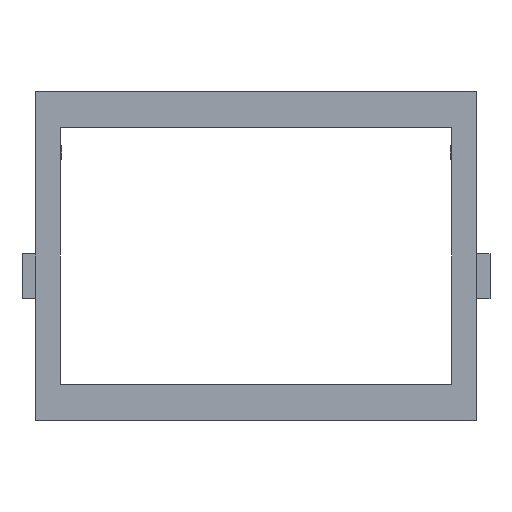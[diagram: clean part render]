
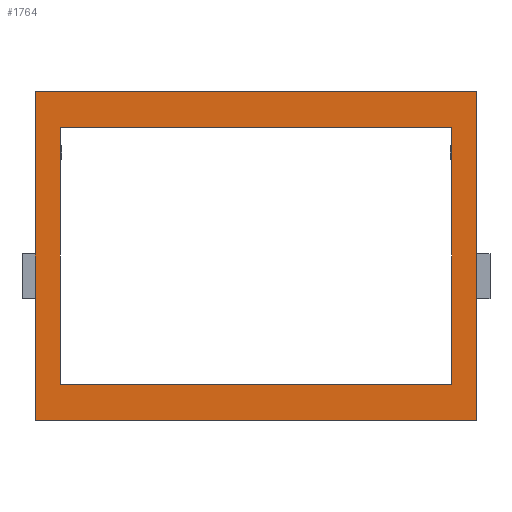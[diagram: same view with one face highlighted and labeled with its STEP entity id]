
A CAD part, front view. The second image highlights one B-rep face of the part: STEP entity #1764.
In plain terms, the highlighted planar face has unit normal (0, -1, 0).
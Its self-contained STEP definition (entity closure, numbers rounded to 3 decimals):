
#22 = VERTEX_POINT('',#23);
#23 = CARTESIAN_POINT('',(36.,80.4,86.));
#32 = PLANE('',#33);
#33 = AXIS2_PLACEMENT_3D('',#34,#35,#36);
#34 = CARTESIAN_POINT('',(36.,80.4,13.));
#35 = DIRECTION('',(1.,0.,0.));
#36 = DIRECTION('',(0.,0.,1.));
#44 = PLANE('',#45);
#45 = AXIS2_PLACEMENT_3D('',#46,#47,#48);
#46 = CARTESIAN_POINT('',(36.,80.4,86.));
#47 = DIRECTION('',(0.,0.,1.));
#48 = DIRECTION('',(1.,0.,0.));
#56 = EDGE_CURVE('',#57,#22,#59,.T.);
#57 = VERTEX_POINT('',#58);
#58 = CARTESIAN_POINT('',(36.,80.4,13.));
#59 = SURFACE_CURVE('',#60,(#64,#71),.PCURVE_S1.);
#60 = LINE('',#61,#62);
#61 = CARTESIAN_POINT('',(36.,80.4,13.));
#62 = VECTOR('',#63,1.);
#63 = DIRECTION('',(0.,0.,1.));
#64 = PCURVE('',#32,#65);
#65 = DEFINITIONAL_REPRESENTATION('',(#66),#70);
#66 = LINE('',#67,#68);
#67 = CARTESIAN_POINT('',(0.,0.));
#68 = VECTOR('',#69,1.);
#69 = DIRECTION('',(1.,0.));
#70 = ( GEOMETRIC_REPRESENTATION_CONTEXT(2) 
PARAMETRIC_REPRESENTATION_CONTEXT() REPRESENTATION_CONTEXT('2D SPACE',''
  ) );
#71 = PCURVE('',#72,#77);
#72 = PLANE('',#73);
#73 = AXIS2_PLACEMENT_3D('',#74,#75,#76);
#74 = CARTESIAN_POINT('',(36.,80.4,13.));
#75 = DIRECTION('',(0.,1.,0.));
#76 = DIRECTION('',(0.,0.,1.));
#77 = DEFINITIONAL_REPRESENTATION('',(#78),#82);
#78 = LINE('',#79,#80);
#79 = CARTESIAN_POINT('',(0.,0.));
#80 = VECTOR('',#81,1.);
#81 = DIRECTION('',(1.,0.));
#82 = ( GEOMETRIC_REPRESENTATION_CONTEXT(2) 
PARAMETRIC_REPRESENTATION_CONTEXT() REPRESENTATION_CONTEXT('2D SPACE',''
  ) );
#100 = PLANE('',#101);
#101 = AXIS2_PLACEMENT_3D('',#102,#103,#104);
#102 = CARTESIAN_POINT('',(36.,80.4,13.));
#103 = DIRECTION('',(0.,0.,1.));
#104 = DIRECTION('',(1.,0.,0.));
#243 = EDGE_CURVE('',#22,#244,#246,.T.);
#244 = VERTEX_POINT('',#245);
#245 = CARTESIAN_POINT('',(134.,80.4,86.));
#246 = SURFACE_CURVE('',#247,(#251,#258),.PCURVE_S1.);
#247 = LINE('',#248,#249);
#248 = CARTESIAN_POINT('',(36.,80.4,86.));
#249 = VECTOR('',#250,1.);
#250 = DIRECTION('',(1.,0.,0.));
#251 = PCURVE('',#44,#252);
#252 = DEFINITIONAL_REPRESENTATION('',(#253),#257);
#253 = LINE('',#254,#255);
#254 = CARTESIAN_POINT('',(0.,0.));
#255 = VECTOR('',#256,1.);
#256 = DIRECTION('',(1.,0.));
#257 = ( GEOMETRIC_REPRESENTATION_CONTEXT(2) 
PARAMETRIC_REPRESENTATION_CONTEXT() REPRESENTATION_CONTEXT('2D SPACE',''
  ) );
#258 = PCURVE('',#72,#259);
#259 = DEFINITIONAL_REPRESENTATION('',(#260),#264);
#260 = LINE('',#261,#262);
#261 = CARTESIAN_POINT('',(73.,0.));
#262 = VECTOR('',#263,1.);
#263 = DIRECTION('',(0.,1.));
#264 = ( GEOMETRIC_REPRESENTATION_CONTEXT(2) 
PARAMETRIC_REPRESENTATION_CONTEXT() REPRESENTATION_CONTEXT('2D SPACE',''
  ) );
#282 = PLANE('',#283);
#283 = AXIS2_PLACEMENT_3D('',#284,#285,#286);
#284 = CARTESIAN_POINT('',(134.,80.4,13.));
#285 = DIRECTION('',(1.,0.,0.));
#286 = DIRECTION('',(0.,0.,1.));
#1185 = PLANE('',#1186);
#1186 = AXIS2_PLACEMENT_3D('',#1187,#1188,#1189);
#1187 = CARTESIAN_POINT('',(40.,80.3,78.));
#1188 = DIRECTION('',(0.,0.,1.));
#1189 = DIRECTION('',(1.,0.,0.));
#1212 = PLANE('',#1213);
#1213 = AXIS2_PLACEMENT_3D('',#1214,#1215,#1216);
#1214 = CARTESIAN_POINT('',(41.5,80.4,21.));
#1215 = DIRECTION('',(1.,0.,0.));
#1216 = DIRECTION('',(0.,0.,1.));
#1240 = PLANE('',#1241);
#1241 = AXIS2_PLACEMENT_3D('',#1242,#1243,#1244);
#1242 = CARTESIAN_POINT('',(40.,80.3,21.));
#1243 = DIRECTION('',(0.,0.,1.));
#1244 = DIRECTION('',(1.,0.,0.));
#1265 = PLANE('',#1266);
#1266 = AXIS2_PLACEMENT_3D('',#1267,#1268,#1269);
#1267 = CARTESIAN_POINT('',(128.5,80.4,21.));
#1268 = DIRECTION('',(1.,0.,0.));
#1269 = DIRECTION('',(0.,0.,1.));
#1720 = EDGE_CURVE('',#57,#1721,#1723,.T.);
#1721 = VERTEX_POINT('',#1722);
#1722 = CARTESIAN_POINT('',(134.,80.4,13.));
#1723 = SURFACE_CURVE('',#1724,(#1728,#1735),.PCURVE_S1.);
#1724 = LINE('',#1725,#1726);
#1725 = CARTESIAN_POINT('',(36.,80.4,13.));
#1726 = VECTOR('',#1727,1.);
#1727 = DIRECTION('',(1.,0.,0.));
#1728 = PCURVE('',#100,#1729);
#1729 = DEFINITIONAL_REPRESENTATION('',(#1730),#1734);
#1730 = LINE('',#1731,#1732);
#1731 = CARTESIAN_POINT('',(0.,0.));
#1732 = VECTOR('',#1733,1.);
#1733 = DIRECTION('',(1.,0.));
#1734 = ( GEOMETRIC_REPRESENTATION_CONTEXT(2) 
PARAMETRIC_REPRESENTATION_CONTEXT() REPRESENTATION_CONTEXT('2D SPACE',''
  ) );
#1735 = PCURVE('',#72,#1736);
#1736 = DEFINITIONAL_REPRESENTATION('',(#1737),#1741);
#1737 = LINE('',#1738,#1739);
#1738 = CARTESIAN_POINT('',(0.,0.));
#1739 = VECTOR('',#1740,1.);
#1740 = DIRECTION('',(0.,1.));
#1741 = ( GEOMETRIC_REPRESENTATION_CONTEXT(2) 
PARAMETRIC_REPRESENTATION_CONTEXT() REPRESENTATION_CONTEXT('2D SPACE',''
  ) );
#1764 = ADVANCED_FACE('',(#1765,#1791),#72,.F.);
#1765 = FACE_BOUND('',#1766,.F.);
#1766 = EDGE_LOOP('',(#1767,#1768,#1769,#1770));
#1767 = ORIENTED_EDGE('',*,*,#1720,.F.);
#1768 = ORIENTED_EDGE('',*,*,#56,.T.);
#1769 = ORIENTED_EDGE('',*,*,#243,.T.);
#1770 = ORIENTED_EDGE('',*,*,#1771,.F.);
#1771 = EDGE_CURVE('',#1721,#244,#1772,.T.);
#1772 = SURFACE_CURVE('',#1773,(#1777,#1784),.PCURVE_S1.);
#1773 = LINE('',#1774,#1775);
#1774 = CARTESIAN_POINT('',(134.,80.4,13.));
#1775 = VECTOR('',#1776,1.);
#1776 = DIRECTION('',(0.,0.,1.));
#1777 = PCURVE('',#72,#1778);
#1778 = DEFINITIONAL_REPRESENTATION('',(#1779),#1783);
#1779 = LINE('',#1780,#1781);
#1780 = CARTESIAN_POINT('',(0.,98.));
#1781 = VECTOR('',#1782,1.);
#1782 = DIRECTION('',(1.,0.));
#1783 = ( GEOMETRIC_REPRESENTATION_CONTEXT(2) 
PARAMETRIC_REPRESENTATION_CONTEXT() REPRESENTATION_CONTEXT('2D SPACE',''
  ) );
#1784 = PCURVE('',#282,#1785);
#1785 = DEFINITIONAL_REPRESENTATION('',(#1786),#1790);
#1786 = LINE('',#1787,#1788);
#1787 = CARTESIAN_POINT('',(0.,0.));
#1788 = VECTOR('',#1789,1.);
#1789 = DIRECTION('',(1.,0.));
#1790 = ( GEOMETRIC_REPRESENTATION_CONTEXT(2) 
PARAMETRIC_REPRESENTATION_CONTEXT() REPRESENTATION_CONTEXT('2D SPACE',''
  ) );
#1791 = FACE_BOUND('',#1792,.F.);
#1792 = EDGE_LOOP('',(#1793,#1817,#1840,#1862));
#1793 = ORIENTED_EDGE('',*,*,#1794,.F.);
#1794 = EDGE_CURVE('',#1795,#1797,#1799,.T.);
#1795 = VERTEX_POINT('',#1796);
#1796 = CARTESIAN_POINT('',(41.5,80.4,78.));
#1797 = VERTEX_POINT('',#1798);
#1798 = CARTESIAN_POINT('',(128.5,80.4,78.));
#1799 = SURFACE_CURVE('',#1800,(#1804,#1811),.PCURVE_S1.);
#1800 = LINE('',#1801,#1802);
#1801 = CARTESIAN_POINT('',(38.,80.4,78.));
#1802 = VECTOR('',#1803,1.);
#1803 = DIRECTION('',(1.,0.,0.));
#1804 = PCURVE('',#72,#1805);
#1805 = DEFINITIONAL_REPRESENTATION('',(#1806),#1810);
#1806 = LINE('',#1807,#1808);
#1807 = CARTESIAN_POINT('',(65.,2.));
#1808 = VECTOR('',#1809,1.);
#1809 = DIRECTION('',(0.,1.));
#1810 = ( GEOMETRIC_REPRESENTATION_CONTEXT(2) 
PARAMETRIC_REPRESENTATION_CONTEXT() REPRESENTATION_CONTEXT('2D SPACE',''
  ) );
#1811 = PCURVE('',#1185,#1812);
#1812 = DEFINITIONAL_REPRESENTATION('',(#1813),#1816);
#1813 = B_SPLINE_CURVE_WITH_KNOTS('',1,(#1814,#1815),.UNSPECIFIED.,.F.,
  .F.,(2,2),(2.,92.),.PIECEWISE_BEZIER_KNOTS.);
#1814 = CARTESIAN_POINT('',(0.,0.1));
#1815 = CARTESIAN_POINT('',(90.,0.1));
#1816 = ( GEOMETRIC_REPRESENTATION_CONTEXT(2) 
PARAMETRIC_REPRESENTATION_CONTEXT() REPRESENTATION_CONTEXT('2D SPACE',''
  ) );
#1817 = ORIENTED_EDGE('',*,*,#1818,.F.);
#1818 = EDGE_CURVE('',#1819,#1795,#1821,.T.);
#1819 = VERTEX_POINT('',#1820);
#1820 = CARTESIAN_POINT('',(41.5,80.4,21.));
#1821 = SURFACE_CURVE('',#1822,(#1826,#1833),.PCURVE_S1.);
#1822 = LINE('',#1823,#1824);
#1823 = CARTESIAN_POINT('',(41.5,80.4,21.));
#1824 = VECTOR('',#1825,1.);
#1825 = DIRECTION('',(0.,0.,1.));
#1826 = PCURVE('',#72,#1827);
#1827 = DEFINITIONAL_REPRESENTATION('',(#1828),#1832);
#1828 = LINE('',#1829,#1830);
#1829 = CARTESIAN_POINT('',(8.,5.5));
#1830 = VECTOR('',#1831,1.);
#1831 = DIRECTION('',(1.,0.));
#1832 = ( GEOMETRIC_REPRESENTATION_CONTEXT(2) 
PARAMETRIC_REPRESENTATION_CONTEXT() REPRESENTATION_CONTEXT('2D SPACE',''
  ) );
#1833 = PCURVE('',#1212,#1834);
#1834 = DEFINITIONAL_REPRESENTATION('',(#1835),#1839);
#1835 = LINE('',#1836,#1837);
#1836 = CARTESIAN_POINT('',(0.,0.));
#1837 = VECTOR('',#1838,1.);
#1838 = DIRECTION('',(1.,0.));
#1839 = ( GEOMETRIC_REPRESENTATION_CONTEXT(2) 
PARAMETRIC_REPRESENTATION_CONTEXT() REPRESENTATION_CONTEXT('2D SPACE',''
  ) );
#1840 = ORIENTED_EDGE('',*,*,#1841,.T.);
#1841 = EDGE_CURVE('',#1819,#1842,#1844,.T.);
#1842 = VERTEX_POINT('',#1843);
#1843 = CARTESIAN_POINT('',(128.5,80.4,21.));
#1844 = SURFACE_CURVE('',#1845,(#1849,#1856),.PCURVE_S1.);
#1845 = LINE('',#1846,#1847);
#1846 = CARTESIAN_POINT('',(38.,80.4,21.));
#1847 = VECTOR('',#1848,1.);
#1848 = DIRECTION('',(1.,0.,0.));
#1849 = PCURVE('',#72,#1850);
#1850 = DEFINITIONAL_REPRESENTATION('',(#1851),#1855);
#1851 = LINE('',#1852,#1853);
#1852 = CARTESIAN_POINT('',(8.,2.));
#1853 = VECTOR('',#1854,1.);
#1854 = DIRECTION('',(0.,1.));
#1855 = ( GEOMETRIC_REPRESENTATION_CONTEXT(2) 
PARAMETRIC_REPRESENTATION_CONTEXT() REPRESENTATION_CONTEXT('2D SPACE',''
  ) );
#1856 = PCURVE('',#1240,#1857);
#1857 = DEFINITIONAL_REPRESENTATION('',(#1858),#1861);
#1858 = B_SPLINE_CURVE_WITH_KNOTS('',1,(#1859,#1860),.UNSPECIFIED.,.F.,
  .F.,(2,2),(2.,92.),.PIECEWISE_BEZIER_KNOTS.);
#1859 = CARTESIAN_POINT('',(0.,0.1));
#1860 = CARTESIAN_POINT('',(90.,0.1));
#1861 = ( GEOMETRIC_REPRESENTATION_CONTEXT(2) 
PARAMETRIC_REPRESENTATION_CONTEXT() REPRESENTATION_CONTEXT('2D SPACE',''
  ) );
#1862 = ORIENTED_EDGE('',*,*,#1863,.T.);
#1863 = EDGE_CURVE('',#1842,#1797,#1864,.T.);
#1864 = SURFACE_CURVE('',#1865,(#1869,#1876),.PCURVE_S1.);
#1865 = LINE('',#1866,#1867);
#1866 = CARTESIAN_POINT('',(128.5,80.4,21.));
#1867 = VECTOR('',#1868,1.);
#1868 = DIRECTION('',(0.,0.,1.));
#1869 = PCURVE('',#72,#1870);
#1870 = DEFINITIONAL_REPRESENTATION('',(#1871),#1875);
#1871 = LINE('',#1872,#1873);
#1872 = CARTESIAN_POINT('',(8.,92.5));
#1873 = VECTOR('',#1874,1.);
#1874 = DIRECTION('',(1.,0.));
#1875 = ( GEOMETRIC_REPRESENTATION_CONTEXT(2) 
PARAMETRIC_REPRESENTATION_CONTEXT() REPRESENTATION_CONTEXT('2D SPACE',''
  ) );
#1876 = PCURVE('',#1265,#1877);
#1877 = DEFINITIONAL_REPRESENTATION('',(#1878),#1882);
#1878 = LINE('',#1879,#1880);
#1879 = CARTESIAN_POINT('',(0.,0.));
#1880 = VECTOR('',#1881,1.);
#1881 = DIRECTION('',(1.,0.));
#1882 = ( GEOMETRIC_REPRESENTATION_CONTEXT(2) 
PARAMETRIC_REPRESENTATION_CONTEXT() REPRESENTATION_CONTEXT('2D SPACE',''
  ) );
